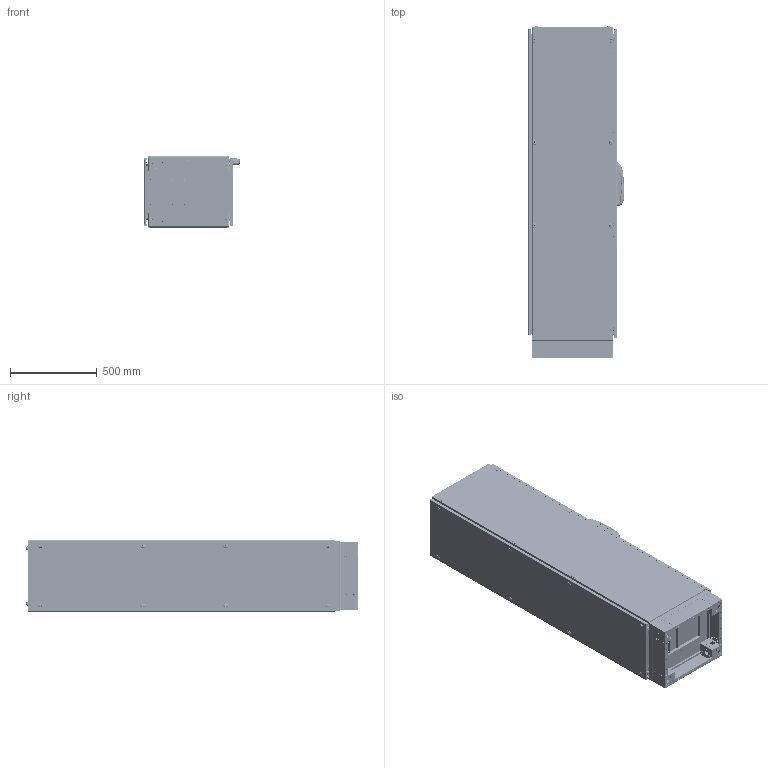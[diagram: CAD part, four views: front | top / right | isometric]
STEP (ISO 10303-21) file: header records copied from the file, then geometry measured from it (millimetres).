
FILE_DESCRIPTION (( 'STEP AP203' ), '1' );
FILE_NAME ('704.185 400x1800x500.STEP', '2020-04-04T12:25:07', ( '' ), ( '' ), 'SwSTEP 2.0', 'SolidWorks 2019', '' );
FILE_SCHEMA (( 'CONFIG_CONTROL_DESIGN' ));
Length unit declared in the file: millimetre
Products named in the file (124): MP 14.0006 PVC SIZDIRMAZLIK CONTASI; mentese orta 09-201; PB 14.0004 M6 HAVÞA PLASTÝK CÝVATA; BAZA SISTEMIV2-6 baza kapaðý201550x40_TEKPAN LOGOLU; MP 18.7631 yddk_tozkapagi; BAZA KÖÞES_SOL; TEOS Yeni Kapak Montaj version 2_1800; MP 18.7631 Kayar Parça; M8 KAFES SOMUN_m8; kafes somun kafes; V2 BAZA KOSESI2015_100; TEOS Kilit Çubuk Pimi; somu; MP 18.7631 Kol-Cark; 03-TABAN SACI U1 04-2012_PP 12.0039 - 400-75; TEOS iskelet_400x1800x500; M6 HAVÞA PLASTÝK CÝVATA; TEOS SIDE PANEL_706.185 1800X500; MP 18.7631 204 handle REV04 tekpan logo; yan arka kapak baglantý saci orta; BAZA SISTEMIV2-6 baza kapaðý201550x40; socket head cap screw_am_B18.3.1M - 8 x 1.25 x 35 Hex SHCS -- 35NHX; mentese bakýr kapak 09-201; pan cross head_am1_B18.6.7M - M5 x 0.8 x 10 Type I Cross Recessed PHMS --10N; M6 KAFES SOMU2015; MP 18.7631 Modul; Teos-Neo 3mm MOUNTING PLATE_TEO MP 400X1800; Teos-Neo MP Durdurucu Destek; kapali dikey profilkenetli_ita oluklu10-aaaaaaaaaaaa-1_400; on Kapi 10-2017 2 mm dkp_PP 17.1092 400x1800; Teos-Neo MP Sað Braketi; kose rondela kabartmaSIZ 12; TEOS Kilit Alt Çubuk Montaj_1800H; socket button head cap screw_am_B18.3.4M - 8 x 1.25 x 16 SBHCS --N; Teos-Neo MP Sol Braket Montaj_Standart Pozisyon; V2 -2011 DT BAZA KAPAGI ON_PP 12.0044 - 400; TEOS REAR PANEL_703.418 400x1800; mp aLT DAYAMA_PP 12.0092 - 500; V3 -2011 DT BAZA KAPAGI yan_PP 12.0050 - 500; TEOS Kilit Çubuk Dili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
Assembly tree (384 placements, depth 7):
  704.185 400x1800x500
    TEOS iskelet_400x1800x500
      kapali dikey profilkenetli_ita oluklu10-aaaaaaaaaaaa-1_1800  x4
      kapali dikey profilkenetli_ita oluklu10-aaaaaaaaaaaa-1_500  x4
      kapali dikey profilkenetli_ita oluklu10-aaaaaaaaaaaa-1_400  x4
      L KOSE DESTEKorj1  x8
      kose rondela kabartmaSIZ 10  x15
      kose rondela kabartmaSIZ 12
      MP 11.0140 TEOS ALUMINYUM KOSE APPROVED 16.08.2010  x8
      M5 DÝKEY PROFÝL RONDELA  x16
      percinli taban-vidalý kapak-kose pls yok_701.450-40X50 ALT
        03-taban genislik percinli 04 - 2012 100-120_PP 12.0018 - 400  x2
        03taban derinlik percinli_PP 12.0024 - 500  x2
        03-KOSE PUNT_PP 12.0027
        03-KOSE PUNT
        Mirror03-KOSE PUNT  x2
        TEOS V2 BAZA S嵞TEM廆400X500
          BAZA KÖÞES_SAG
            V2 BAZA KOSESI2015_100
            BAZA SISTEMIV2-6 baza kapaðý201550x40_TEKPAN LOGOLU
            M6 KAFES SOMU2015
              kafes somun kafes
              somu
            M6 KAFES SOMU2015
              kafes somun kafes
              somu
          V2 -2011 DT BAZA KAPAGI ON_PP 12.0044 - 400  x2
          BAZA KÖÞES_SOL
            V2 BAZA KOSESI2015_100
            BAZA SISTEMIV2-6 baza kapaðý201550x40
            M6 KAFES SOMU2015
              kafes somun kafes
              somu
            M6 KAFES SOMU2015
              kafes somun kafes
              somu
          BAZA KÖÞES_SAG
            V2 BAZA KOSESI2015_100
            BAZA SISTEMIV2-6 baza kapaðý201550x40_TEKPAN LOGOLU
            M6 KAFES SOMU2015
              kafes somun kafes
              somu
            M6 KAFES SOMU2015
              kafes somun kafes
              somu
          BAZA KÖÞES_SOL
            V2 BAZA KOSESI2015_100
            BAZA SISTEMIV2-6 baza kapaðý201550x40
            M6 KAFES SOMU2015
              kafes somun kafes
              somu
            M6 KAFES SOMU2015
              kafes somun kafes
              somu
          V3 -2011 DT BAZA KAPAGI yan_PP 12.0050 - 500  x2
          flat head screw_am_B18.6.7M - M6 x 1.0 x 20 Type I Cross Recessed FHMS --20N  x8
        03-TABAN SACI SURGU_PP 12.0029 - 400
        03-TABAN SACI U1 04-2012_PP 12.0039 - 400-75
        03-TABAN SACI U1 04-2012_PP 12.0034 - 400-200
        mp aLT DAYAMA_PP 12.0092 - 500  x2
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Bounding box: 558.08 x 1917.1 x 418.87 mm (x, y, z)
Volume: 14562343 mm3; surface area: 15427766.1 mm2
Topology: 331 solids, 371 shells, 49016 faces, 132335 edges, 83756 vertices
Faces by surface type: plane 31322, cylinder 12775, bspline 2211, torus 1139, cone 960, sphere 609
Entity records: 685241 total; most frequent: CARTESIAN_POINT 291521, ORIENTED_EDGE 80130, DIRECTION 73524, EDGE_CURVE 40065, LINE 26800, VECTOR 26800, VERTEX_POINT 25606, AXIS2_PLACEMENT_3D 23362
